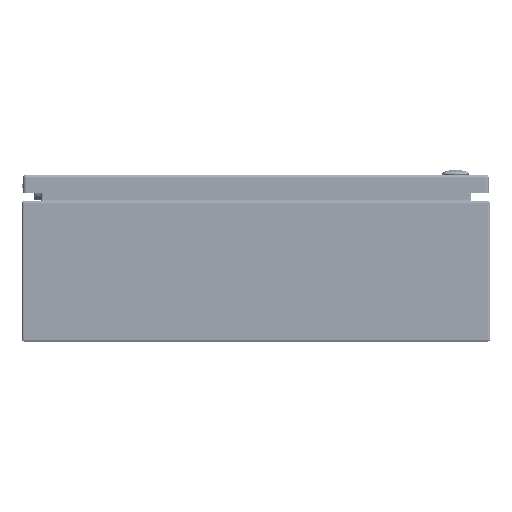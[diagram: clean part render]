
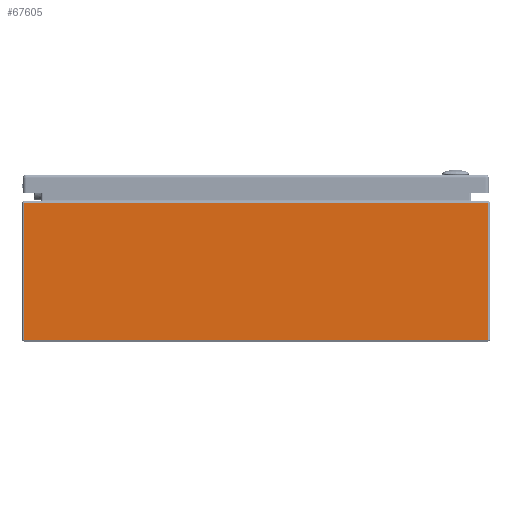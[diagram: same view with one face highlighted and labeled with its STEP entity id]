
A CAD part, front view. The second image highlights one B-rep face of the part: STEP entity #67605.
In plain terms, the highlighted planar face has unit normal (0, -1, 0).
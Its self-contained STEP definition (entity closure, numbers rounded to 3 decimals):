
#6855=LINE('',#95101,#10993);
#6861=LINE('',#95119,#10999);
#6864=LINE('',#95134,#11002);
#6890=LINE('',#95282,#11028);
#10993=VECTOR('',#78761,0.394);
#10999=VECTOR('',#78781,0.394);
#11002=VECTOR('',#78798,0.394);
#11028=VECTOR('',#78970,0.394);
#16248=FACE_OUTER_BOUND('',#20436,.T.);
#20436=EDGE_LOOP('',(#45067,#45068,#45069,#45070));
#27463=VERTEX_POINT('',#95092);
#27466=VERTEX_POINT('',#95099);
#27471=VERTEX_POINT('',#95118);
#27475=VERTEX_POINT('',#95127);
#34186=EDGE_CURVE('',#27466,#27463,#6855,.T.);
#34195=EDGE_CURVE('',#27463,#27471,#6861,.T.);
#34203=EDGE_CURVE('',#27471,#27475,#6864,.T.);
#34277=EDGE_CURVE('',#27475,#27466,#6890,.T.);
#45067=ORIENTED_EDGE('',*,*,#34186,.F.);
#45068=ORIENTED_EDGE('',*,*,#34277,.F.);
#45069=ORIENTED_EDGE('',*,*,#34203,.F.);
#45070=ORIENTED_EDGE('',*,*,#34195,.F.);
#66108=PLANE('',#72719);
#67605=ADVANCED_FACE('',(#16248),#66108,.F.);
#72719=AXIS2_PLACEMENT_3D('',#95281,#78968,#78969);
#78761=DIRECTION('',(0.,0.,1.));
#78781=DIRECTION('',(1.,0.,0.));
#78798=DIRECTION('',(0.,0.,-1.));
#78968=DIRECTION('center_axis',(0.,1.,0.));
#78969=DIRECTION('ref_axis',(0.,0.,1.));
#78970=DIRECTION('',(-1.,0.,0.));
#95092=CARTESIAN_POINT('',(-9.916,-15.,5.916));
#95099=CARTESIAN_POINT('',(-9.916,-15.,0.084));
#95101=CARTESIAN_POINT('',(-9.916,-15.,5.916));
#95118=CARTESIAN_POINT('',(9.916,-15.,5.916));
#95119=CARTESIAN_POINT('',(-9.078,-15.,5.916));
#95127=CARTESIAN_POINT('',(9.916,-15.,0.084));
#95134=CARTESIAN_POINT('',(9.916,-15.,5.916));
#95281=CARTESIAN_POINT('Origin',(9.078,-15.,5.916));
#95282=CARTESIAN_POINT('',(9.518,-15.,0.084));
